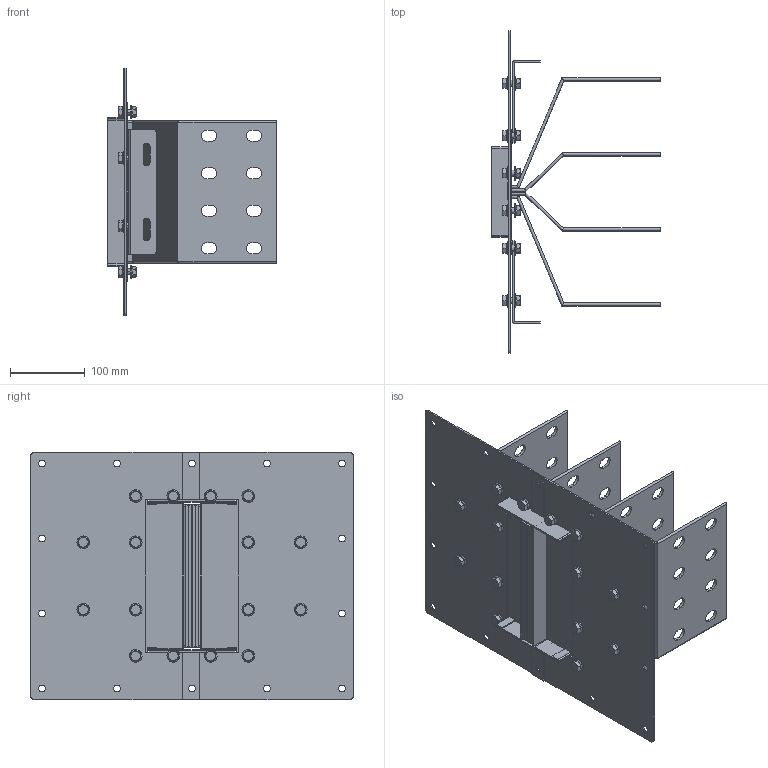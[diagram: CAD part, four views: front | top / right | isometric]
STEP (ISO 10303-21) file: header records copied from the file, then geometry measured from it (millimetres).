
FILE_DESCRIPTION(('CATIA V5 STEP','CAx-IF Rec.Pracs.--- Model Styling and Organization---1.5--- 2016-08-15','CAx-IF Rec.Pracs.---Supplemental Geometry---1.0---2011-11-01','CAx-IF Rec.Pracs.--- Composite Materials ---1.1---2010-07-15'),'2;1');
FILE_NAME('K:\COSCN 2011\32372311_RiduzioneSezioniBarre\03_Studio\__Modelli semplificati\XCP_UB semplificati per studi\XCP-S_UB_4C_Pe_STD_Assieme\Cu\XCP-S_UB_4C_Pe_S_Assieme - 2000A Cu\XCP-S_UB_4C_Pe_S_Assieme - 2000A Cu.stp','2025-05-12T13:05:51+00:00',('Utente Bticino'),('Bticino S.p.A.'),'CATIA Version 5-6 Release 2020 SP5','CATIA V5 STEP AP214 v2','none');
FILE_SCHEMA(('AUTOMOTIVE_DESIGN { 1 0 10303 214 1 1 1 1 }'));
Length unit declared in the file: millimetre
Products named in the file (7): XCP-S_UB_4C_Pe_S_Assieme - 2000A Cu; XCP-S_UB_4C_Pe_S_PaccoBarre_2000 Cu; XCP-S_UB_4C_Pe_S_Lamiere_2000A Cu; Viteria UB H130; Ass Vite+dado M8; Steel hex flanged SCREW M12x16; Steel hex flanged NUT M8
Assembly tree (21 placements, depth 4):
  XCP-S_UB_4C_Pe_S_Assieme - 2000A Cu
    XCP-S_UB_4C_Pe_S_PaccoBarre_2000 Cu
    XCP-S_UB_4C_Pe_S_Lamiere_2000A Cu
    Viteria UB H130
      Ass Vite+dado M8  x16
        Steel hex flanged SCREW M12x16
        Steel hex flanged NUT M8
Bounding box: 225 x 430 x 330 mm (x, y, z)
Volume: 1244692 mm3; surface area: 917897.2 mm2
Topology: 44 solids, 44 shells, 1204 faces, 2992 edges, 1908 vertices
Faces by surface type: plane 512, cylinder 404, cone 128, bspline 128, torus 32
Entity records: 16801 total; most frequent: CARTESIAN_POINT 3794, ORIENTED_EDGE 2804, DIRECTION 2192, EDGE_CURVE 1402, VERTEX_POINT 918, AXIS2_PLACEMENT_3D 912, VECTOR 852, LINE 852
